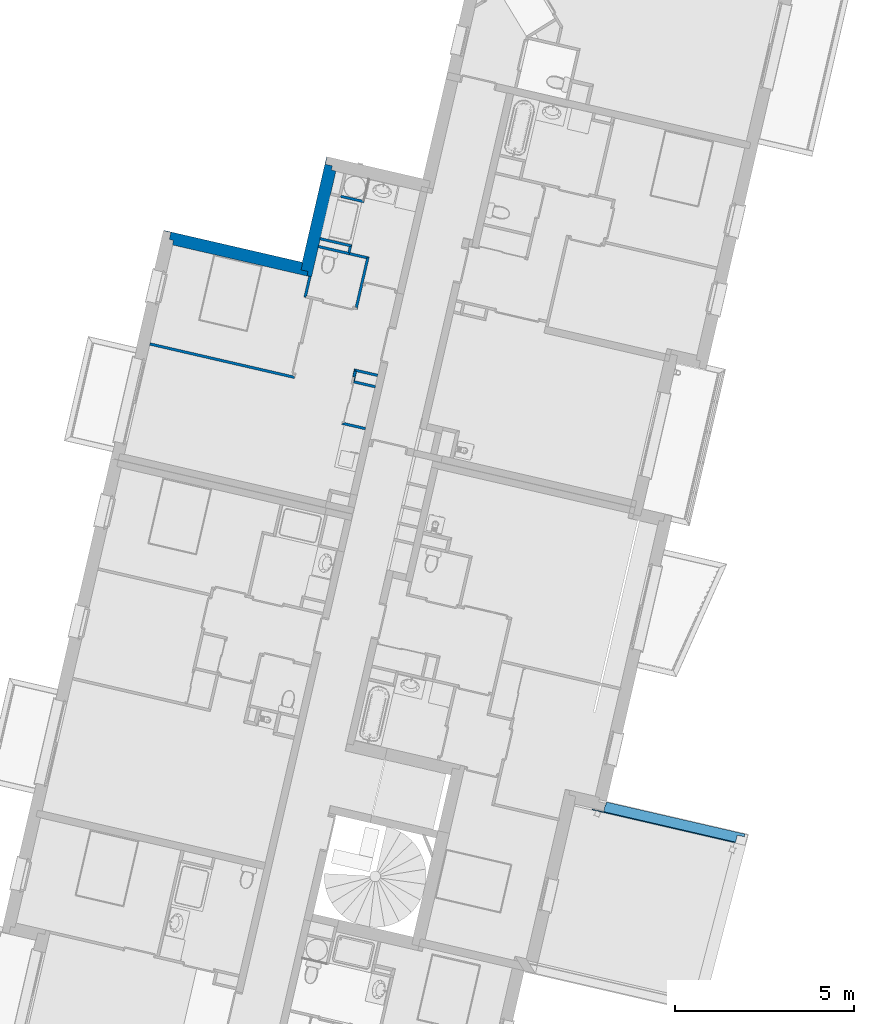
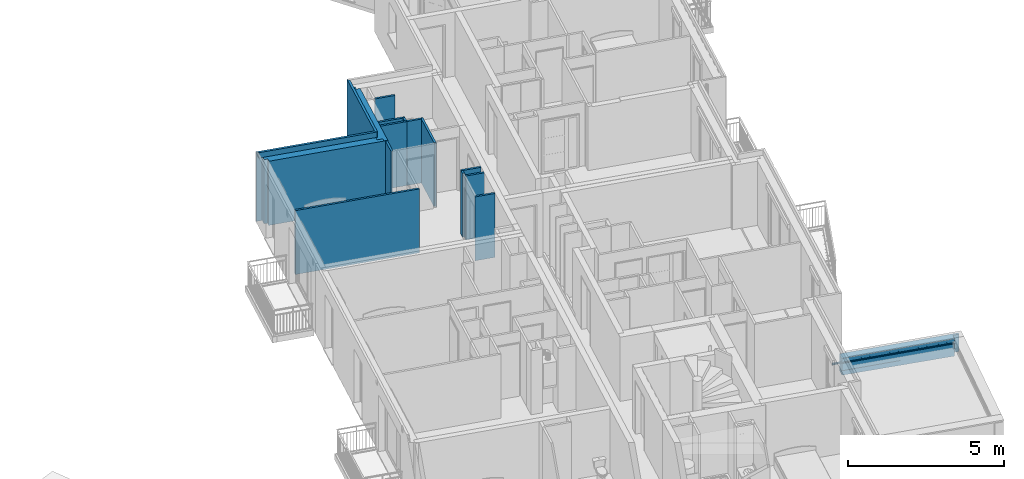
# One storey, part 51 of 90: 15 walls.
"""IFC2X3 building model written with IfcOpenShell, lengths in metres."""

import ifcopenshell
import ifcopenshell.guid

model = None  # the IFC model being written
_history = None  # IfcOwnerHistory: only IFC2X3 demands one
_inside = {}  # id of a spatial element -> (the spatial element, [elements in it])
_under = {}  # id of a project, library or spatial element -> (it, [spatial elements below it])
_declared = {}  # id of a project -> (the project, [libraries it declares])
_typed = {}  # id of a type object -> (the type object, [elements of that type])
_made_of = {}  # id of a material, layer set ... -> (it, [elements and type objects made of it])


def new_model(schema):
    """Start an empty IFC model of exactly this schema.

    Asked for "IFC4X3", IfcOpenShell would pick the latest addendum, in which some entities
    have other attributes; the version numbers below select the first issue.
    IFC2X3 requires an IfcOwnerHistory on every rooted entity: one is made here for all.
    """
    global model, _history
    if schema == "IFC4X3":
        model = ifcopenshell.file(schema_version=(4, 3, 0, 0))
    else:
        model = ifcopenshell.file(schema=schema)
    _inside.clear()
    _under.clear()
    _declared.clear()
    _typed.clear()
    _made_of.clear()
    _history = None
    if model.schema == "IFC2X3":
        org = make("IfcOrganization", Name="unknown")
        user = make(
            "IfcPersonAndOrganization",
            ThePerson=make("IfcPerson", FamilyName="unknown"),
            TheOrganization=org,
        )
        app = make(
            "IfcApplication",
            ApplicationDeveloper=org,
            Version="unknown",
            ApplicationFullName="unknown",
            ApplicationIdentifier="unknown",
        )
        _history = make(
            "IfcOwnerHistory",
            OwningUser=user,
            OwningApplication=app,
            ChangeAction="ADDED",
            CreationDate=0,
        )
    return model


def make(cls, **values):
    """One entity of the class cls with the attributes given. An attribute that is None is left unset."""
    return model.create_entity(
        cls, **{name: value for name, value in values.items() if value is not None}
    )


def entity(cls, *values):
    """Any entity or typed value of the class cls, its attributes in the order of the schema. None: left unset."""
    e = model.create_entity(cls)
    for i, value in enumerate(values):
        if value is not None:
            e[i] = value
    return e


def rooted(cls, **values):
    """An entity with a GlobalId (a new one), such as an element, a storey or a relation."""
    return make(cls, GlobalId=ifcopenshell.guid.new(), OwnerHistory=_history, **values)


def si_unit(unit_type, name, prefix=None):
    """IfcSIUnit, for example si_unit("LENGTHUNIT", "METRE", prefix="MILLI")."""
    return make("IfcSIUnit", UnitType=unit_type, Prefix=prefix, Name=name)


def converted_unit(unit_type, name, factor, base, dimensions=None, offset=None):
    """IfcConversionBasedUnit, such as the inch: factor (a typed value) times the base unit."""
    return make(
        "IfcConversionBasedUnit"
        if offset is None
        else "IfcConversionBasedUnitWithOffset",
        ConversionOffset=offset,
        Dimensions=None
        if dimensions is None
        else entity("IfcDimensionalExponents", *dimensions),
        UnitType=unit_type,
        Name=name,
        ConversionFactor=make(
            "IfcMeasureWithUnit", ValueComponent=factor, UnitComponent=base
        ),
    )


def derived_unit(unit_type, elements):
    """IfcDerivedUnit: a product of units, each with its exponent."""
    return make(
        "IfcDerivedUnit",
        Elements=[
            make("IfcDerivedUnitElement", Unit=unit, Exponent=power)
            for unit, power in elements
        ],
        UnitType=unit_type,
    )


def money_unit(currency):
    """IfcMonetaryUnit."""
    return make("IfcMonetaryUnit", Currency=currency)


def assignment(units):
    """IfcUnitAssignment: the units of a project."""
    return None if units is None else make("IfcUnitAssignment", Units=units)


def point(xyz):
    """IfcCartesianPoint."""
    return None if xyz is None else make("IfcCartesianPoint", Coordinates=xyz)


def direction(xyz):
    """IfcDirection."""
    return None if xyz is None else make("IfcDirection", DirectionRatios=xyz)


def frame(location, z_axis=None, x_axis=None):
    """IfcAxis2Placement3D, a coordinate frame: its origin and axes. An axis left out is left unset."""
    return make(
        "IfcAxis2Placement3D",
        Location=point(location),
        Axis=direction(z_axis),
        RefDirection=direction(x_axis),
    )


def origin_with_axes():
    """The frame at (0, 0, 0) with the z axis (0, 0, 1) and the x axis (1, 0, 0) written out."""
    return frame((0.0, 0.0, 0.0), z_axis=(0.0, 0.0, 1.0), x_axis=(1.0, 0.0, 0.0))


def place(relative_to, where):
    """IfcLocalPlacement: puts the frame where relative to a parent placement (None: the world)."""
    return make(
        "IfcLocalPlacement", PlacementRelTo=relative_to, RelativePlacement=where
    )


def context(
    kind, dimensions, precision=None, world=None, true_north=None, identifier=None
):
    """IfcGeometricRepresentationContext, for example the 3D "Model" context."""
    return make(
        "IfcGeometricRepresentationContext",
        ContextIdentifier=identifier,
        ContextType=kind,
        CoordinateSpaceDimension=dimensions,
        Precision=precision,
        WorldCoordinateSystem=world,
        TrueNorth=true_north,
    )


def subcontext(parent, identifier, kind, view, scale=None):
    """IfcGeometricRepresentationSubContext, for example "Body" below "Model"."""
    return make(
        "IfcGeometricRepresentationSubContext",
        ContextIdentifier=identifier,
        ContextType=kind,
        ParentContext=parent,
        TargetScale=scale,
        TargetView=view,
    )


def project(units=None, contexts=None):
    """IfcProject with its units and contexts."""
    return rooted(
        "IfcProject",
        Name="project",
        RepresentationContexts=contexts,
        UnitsInContext=assignment(units),
    )


def spatial(cls, under=None, at=None, **own):
    """A site, building, storey or space (cls), placed at a placement, below another one or the project."""
    s = rooted(cls, ObjectPlacement=at, **own)
    if under is not None:
        _under.setdefault(under.id(), (under, []))[1].append(s)
    return s


def faces_of(points, faces, orient=None, outer=None):
    """IfcFace entities. A face is a list of loops; a loop is a list of indices into points, from 0.

    orient and outer hold one flag for each loop. By default every Orientation is true, the
    first loop of a face is its IfcFaceOuterBound and the others are IfcFaceBound.
    """
    made = []
    for i, loops in enumerate(faces):
        bounds = []
        for j, loop in enumerate(loops):
            is_outer = j == 0 if outer is None else outer[i][j]
            bounds.append(
                make(
                    "IfcFaceOuterBound" if is_outer else "IfcFaceBound",
                    Bound=make("IfcPolyLoop", Polygon=[points[k] for k in loop]),
                    Orientation=True if orient is None else orient[i][j],
                )
            )
        made.append(make("IfcFace", Bounds=bounds))
    return made


def faceted_brep(points, faces, orient=None, outer=None, voids=None):
    """IfcFacetedBrep: a solid bounded by flat faces; with voids (closed shells), ...WithVoids."""
    shared = [point(p) for p in points]
    hull = make("IfcClosedShell", CfsFaces=faces_of(shared, faces, orient, outer))
    if voids is None:
        return make("IfcFacetedBrep", Outer=hull)
    return make(
        "IfcFacetedBrepWithVoids",
        Outer=hull,
        Voids=[
            make(cls, CfsFaces=faces_of(shared, fs, o, b)) for cls, fs, o, b in voids
        ],
    )


def shape(context_of_items, identifier, shape_type, items):
    """IfcShapeRepresentation: the items that make up one representation, for example the "Body"."""
    return make(
        "IfcShapeRepresentation",
        ContextOfItems=context_of_items,
        RepresentationIdentifier=identifier,
        RepresentationType=shape_type,
        Items=items,
    )


def material(Name=None, Category=None):
    """IfcMaterial."""
    return make("IfcMaterial", Name=Name, Category=Category)


def material_list(materials):
    """IfcMaterialList."""
    return make("IfcMaterialList", Materials=materials)


def made_of(thing, what):
    """Note that an element or type object is made of a material, layer set ...; save() writes the relation."""
    if what is not None:
        _made_of.setdefault(what.id(), (what, []))[1].append(thing)
    return thing


def type_object(cls, material=None, **own):
    """A type object (cls), such as IfcWallType, which elements share."""
    return made_of(rooted(cls, **own), material)


def element(
    cls,
    number,
    at=None,
    inside=None,
    cuts=None,
    type_object=None,
    material=None,
    context=None,
    identifier="Body",
    shape_type=None,
    held_by="IfcProductDefinitionShape",
    body=None,
    shapes=None,
    **own,
):
    """One element of the class cls, such as IfcWall. Its Tag is "e" and its number.

    at: its placement. inside: the storey or other place that contains it. cuts: it is an
    opening in that element (IfcRelVoidsElement). A single representation is given by context,
    identifier, shape_type and body (its items); several are given by shapes. held_by: the class
    of the entity that holds the representations. save() writes the other relations.
    """
    e = rooted(cls, Tag="e%d" % number, ObjectPlacement=at, **own)
    if body is not None:
        shapes = [shape(context, identifier, shape_type, body)]
    if shapes is not None:
        e.Representation = make(held_by, Representations=shapes)
    if inside is not None:
        _inside.setdefault(inside.id(), (inside, []))[1].append(e)
    if cuts is not None:
        rooted(
            "IfcRelVoidsElement", RelatingBuildingElement=cuts, RelatedOpeningElement=e
        )
    if type_object is not None:
        _typed.setdefault(type_object.id(), (type_object, []))[1].append(e)
    return made_of(e, material)


def aggregate(whole, parts):
    """IfcRelAggregates: a whole, such as a stair, and the parts it consists of."""
    return rooted("IfcRelAggregates", RelatingObject=whole, RelatedObjects=parts)


def save(model, path):
    """Write the relations noted so far, then the file.

    IfcRelAggregates (storeys below a building ...), IfcRelContainedInSpatialStructure (elements
    in a storey), IfcRelDefinesByType, IfcRelAssociatesMaterial and IfcRelDeclares: one each for
    every whole, place, type object, material and project.
    """
    for whole, parts in _under.values():
        aggregate(whole, parts)
    for where, things in _inside.values():
        rooted(
            "IfcRelContainedInSpatialStructure",
            RelatedElements=things,
            RelatingStructure=where,
        )
    for kind, things in _typed.values():
        rooted("IfcRelDefinesByType", RelatedObjects=things, RelatingType=kind)
    for what, things in _made_of.values():
        rooted("IfcRelAssociatesMaterial", RelatedObjects=things, RelatingMaterial=what)
    for by, libraries in _declared.values():
        rooted("IfcRelDeclares", RelatingContext=by, RelatedDefinitions=libraries)
    model.write(path)


model = new_model("IFC2X3")

# Units and contexts
model_context = context("Model", 3, precision=1e-05, world=origin_with_axes(), true_north=direction((0.0, 1.0)))
body_context = subcontext(model_context, "Body", "Model", "MODEL_VIEW")
ifc_project = project(units=[si_unit("LENGTHUNIT", "METRE"), si_unit("AREAUNIT", "SQUARE_METRE"), si_unit("VOLUMEUNIT", "CUBIC_METRE"), converted_unit("PLANEANGLEUNIT", "DEGREE", entity("IfcPlaneAngleMeasure", 0.0174532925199), si_unit("PLANEANGLEUNIT", "RADIAN"), dimensions=[0, 0, 0, 0, 0, 0, 0]), si_unit("SOLIDANGLEUNIT", "STERADIAN"), money_unit("EUR"), converted_unit("TIMEUNIT", "Year", entity("IfcTimeMeasure", 31556926.0), si_unit("TIMEUNIT", "SECOND"), dimensions=[0, 0, 1, 0, 0, 0, 0]), si_unit("MASSUNIT", "GRAM", prefix="KILO"), si_unit("THERMODYNAMICTEMPERATUREUNIT", "DEGREE_CELSIUS"), si_unit("LUMINOUSINTENSITYUNIT", "LUMEN"), si_unit("ENERGYUNIT", "JOULE", prefix="MEGA"), derived_unit("THERMALCONDUCTANCEUNIT", [(si_unit("POWERUNIT", "WATT"), 1), (si_unit("LENGTHUNIT", "METRE"), -1), (si_unit("THERMODYNAMICTEMPERATUREUNIT", "KELVIN"), -1)]), derived_unit("SPECIFICHEATCAPACITYUNIT", [(si_unit("ENERGYUNIT", "JOULE"), 1), (si_unit("MASSUNIT", "GRAM", prefix="KILO"), -1), (si_unit("THERMODYNAMICTEMPERATUREUNIT", "KELVIN"), -1)]), derived_unit("MASSDENSITYUNIT", [(si_unit("MASSUNIT", "GRAM", prefix="KILO"), 1), (si_unit("VOLUMEUNIT", "CUBIC_METRE"), -1)])], contexts=[model_context])

# Site, building, storey
site_placement = place(None, origin_with_axes())
site = spatial("IfcSite", under=ifc_project, at=site_placement, Name="Site", CompositionType="ELEMENT")
building_placement = place(site_placement, origin_with_axes())
building = spatial("IfcBuilding", under=site, at=building_placement, Name="Bâtiment", CompositionType="ELEMENT")
storey_placement = place(building_placement, frame((0.0, 0.0, 2.72), z_axis=(0.0, 0.0, 1.0), x_axis=(1.0, 0.0, 0.0)))
storey = spatial("IfcBuildingStorey", under=building, at=storey_placement, Name="R+1", CompositionType="ELEMENT", Elevation=2.72)

# Walls
ifc_material_1 = material(Name="Finition int - Plaque de plâtre")
ifc_material_2 = material(Name="Isolation - Polystyrène extrudé")
ifc_material_3 = material(Name="Bloc ELITHERM")
ifc_material_4 = material(Name="Isolation - Polystyrène expansé")
ifc_material_5 = material(Name="Mortier")
ifc_material_6 = material(Name="Béton cellulaire")
ifc_material_7 = material(Name="Finition ext - Crépis")
ifc_material_list_1 = material_list([ifc_material_1, ifc_material_2, ifc_material_3, ifc_material_4, ifc_material_5, ifc_material_6, ifc_material_7])
wall_type_1 = type_object("IfcWallType", Name="Mur ALKERN + planelle 21 345 x 2720", PredefinedType="USERDEFINED")
wall_1_placement = place(storey_placement, frame((-10.8873022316, 12.4248199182, 0.0), z_axis=(0.0, 0.0, 1.0), x_axis=(-0.22487619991, -0.974387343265, 0.0)))
element("IfcWall", 1, at=wall_1_placement, inside=storey, type_object=wall_type_1, material=ifc_material_list_1, Name="Mue bloc ALKERN isolé", ObjectType="SOLIDWALL", context=body_context, shape_type="Brep", body=[
    faceted_brep([(3.3749999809, 0.335000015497, 2.51000000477), (0.34499998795, 0.335000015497, 2.51), (0.34499998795, 0.335000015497, 0.0), (3.3749999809, 0.335000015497, 0.0), (2.23900000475, 0.335, 2.2), (1.02900000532, 0.335, 2.2), (1.02900000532, 0.335, 2.5), (2.23900000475, 0.335, 2.5), (3.3749999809, 0.34499998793, 2.51000000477), (0.34499998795, 0.34499998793, 2.51), (0.34499998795, 0.34499998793, 0.0), (3.3749999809, 0.34499998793, 0.0), (2.23900000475, 0.34499998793, 2.2), (1.02900000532, 0.34499998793, 2.2), (1.02900000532, 0.34499998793, 2.5), (2.23900000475, 0.34499998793, 2.5)], [[[0, 1, 2, 3], [4, 5, 6, 7]], [[8, 9, 1, 0]], [[2, 1, 9, 10]], [[3, 2, 10, 11]], [[0, 3, 11, 8]], [[12, 13, 5, 4]], [[13, 14, 6, 5]], [[14, 15, 7, 6]], [[15, 12, 4, 7]], [[11, 10, 9, 8], [12, 15, 14, 13]]]),
    faceted_brep([(0.33500001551, 0.215000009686, 2.51), (3.36500001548, 0.215000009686, 2.51), (3.36500001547, 0.335000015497, 2.51), (0.335000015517, 0.335000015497, 2.51), (0.33500001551, 0.215000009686, 0.0), (3.36500001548, 0.215000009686, 0.0), (3.36500001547, 0.335000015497, 0.0), (0.335000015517, 0.335000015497, 0.0)], [[[0, 1, 2, 3]], [[4, 5, 1, 0]], [[5, 6, 2, 1]], [[3, 2, 6, 7]], [[4, 0, 3, 7]], [[7, 6, 5, 4]]]),
    faceted_brep([(3.24500000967, 0.0829999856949, 2.51), (3.24500000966, 0.214999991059, 2.51), (0.214999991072, 0.214999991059, 2.50999999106), (0.214999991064, 0.0829999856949, 2.50999999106), (3.24500000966, 0.214999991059, 0.0), (3.24500000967, 0.015, 2.51), (3.24500000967, 0.015, 0.0), (0.214999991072, 0.214999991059, 0.0), (0.21499999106, 0.015, 0.0), (0.21499999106, 0.015, 2.50999999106)], [[[0, 1, 2, 3]], [[4, 1, 0, 5, 6]], [[1, 4, 7, 2]], [[3, 2, 7, 8, 9]], [[5, 0, 3, 9]], [[6, 5, 9, 8]], [[4, 6, 8, 7]]]),
    faceted_brep([(3.11299999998, 0.083000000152, 2.51999998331), (0.0830000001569, 0.083000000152, 2.51999999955), (0.0830000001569, 0.083000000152, 2.72), (3.11299999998, 0.083000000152, 2.72), (3.11299999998, 0.0630000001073, 2.51999998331), (0.0830000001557, 0.0630000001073, 2.51999999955), (0.0830000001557, 0.0630000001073, 2.72), (3.11299999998, 0.0630000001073, 2.72)], [[[0, 1, 2, 3]], [[4, 5, 1, 0]], [[5, 6, 2, 1]], [[3, 2, 6, 7]], [[7, 4, 0, 3]], [[7, 6, 5, 4]]]),
    faceted_brep([(0.0830000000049, 0.083, 2.51), (0.0830000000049, 0.083, 2.52), (3.11299999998, 0.083, 2.51999998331), (3.11299999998, 0.083, 2.51000000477), (0.0830000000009, 0.015, 2.52), (0.0830000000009, 0.015, 2.51), (3.11299999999, 0.015, 2.51999998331), (3.11299999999, 0.015, 2.51000000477)], [[[0, 1, 2, 3]], [[4, 1, 0, 5]], [[1, 4, 6, 2]], [[7, 3, 2, 6]], [[5, 0, 3, 7]], [[4, 5, 7, 6]]]),
    faceted_brep([(3.09300000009, 0.015, 2.72), (3.09300000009, 0.0629999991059, 2.72), (0.0629999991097, 0.0629999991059, 2.72), (0.0629999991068, 0.015, 2.72), (3.09300000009, 0.0629999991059, 2.51999999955), (3.09300000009, 0.015, 2.51999999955), (0.0629999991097, 0.0629999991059, 2.51999999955), (0.0629999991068, 0.015, 2.51999999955)], [[[0, 1, 2, 3]], [[4, 1, 0, 5]], [[1, 4, 6, 2]], [[3, 2, 6, 7]], [[5, 0, 3, 7]], [[4, 5, 7, 6]]]),
    faceted_brep([(0.0149999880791, 0.0, 2.72), (3.04499999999, 0.0, 2.72), (3.04499999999, 0.0149999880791, 2.72), (0.0149999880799, 0.0149999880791, 2.72), (3.04499999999, 0.0, 0.0), (0.0149999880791, 0.0, 0.0), (3.04499999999, 0.0149999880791, 0.0), (0.0149999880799, 0.0149999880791, 0.0)], [[[0, 1, 2, 3]], [[4, 1, 0, 5]], [[6, 2, 1, 4]], [[3, 2, 6, 7]], [[5, 0, 3, 7]], [[7, 6, 4, 5]]]),
])
wall_2_placement = place(storey_placement, frame((-11.5686771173, 9.47242626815, 0.0), z_axis=(0.0, 0.0, 1.0), x_axis=(-0.974387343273, 0.224876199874, 0.0)))
element("IfcWall", 2, at=wall_2_placement, inside=storey, type_object=wall_type_1, material=ifc_material_list_1, Name="Mue bloc ALKERN isolé", ObjectType="SOLIDWALL", context=body_context, shape_type="Brep", body=[
    faceted_brep([(3.63500001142, 0.34499998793, 2.51), (-0.335000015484, 0.34499998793, 2.51), (-0.335000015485, 0.335000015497, 2.51), (3.63500001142, 0.335000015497, 2.51), (3.63500001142, 0.34499998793, 0.0), (-0.335000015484, 0.34499998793, 0.0), (-0.335000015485, 0.335000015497, 0.0), (3.63500001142, 0.335000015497, 0.0)], [[[0, 1, 2, 3]], [[4, 5, 1, 0]], [[5, 6, 2, 1]], [[3, 2, 6, 7]], [[4, 0, 3, 7]], [[7, 6, 5, 4]]]),
    faceted_brep([(3.64499998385, 0.335000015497, 2.51), (-0.215000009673, 0.335000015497, 2.51), (-0.215000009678, 0.215000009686, 2.51), (3.64499998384, 0.215000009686, 2.51), (3.64499998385, 0.335000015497, 0.0), (-0.215000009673, 0.335000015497, 0.0), (-0.215000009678, 0.215000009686, 0.0), (3.64499998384, 0.215000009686, 0.0)], [[[0, 1, 2, 3]], [[4, 5, 1, 0]], [[5, 6, 2, 1]], [[3, 2, 6, 7]], [[4, 0, 3, 7]], [[7, 6, 5, 4]]]),
    faceted_brep([(-0.0149999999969, 0.0829999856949, 2.50999999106), (-0.0149999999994, 0.015, 2.50999999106), (3.76500000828, 0.015, 2.50999999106), (3.76500000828, 0.0829999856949, 2.50999999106), (-0.0149999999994, 0.015, 0.0), (-0.014999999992, 0.214999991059, 2.50999999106), (-0.014999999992, 0.214999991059, 0.0), (3.76500000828, 0.015, 0.0), (3.76500000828, 0.214999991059, 0.0), (3.76500000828, 0.214999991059, 2.50999999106)], [[[0, 1, 2, 3]], [[4, 1, 0, 5, 6]], [[1, 4, 7, 2]], [[3, 2, 7, 8, 9]], [[5, 0, 3, 9]], [[6, 5, 9, 8]], [[4, 6, 8, 7]]]),
    faceted_brep([(3.89699999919, 0.083000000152, 2.72), (-0.0630000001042, 0.083000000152, 2.72), (-0.063000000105, 0.0630000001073, 2.72), (3.89699999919, 0.0630000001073, 2.72), (3.89699999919, 0.083000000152, 2.51999999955), (-0.0630000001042, 0.083000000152, 2.51999999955), (-0.063000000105, 0.0630000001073, 2.51999999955), (3.89699999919, 0.0630000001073, 2.51999999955)], [[[0, 1, 2, 3]], [[4, 5, 1, 0]], [[5, 6, 2, 1]], [[3, 2, 6, 7]], [[4, 0, 3, 7]], [[7, 6, 5, 4]]]),
    faceted_brep([(-0.0149999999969, 0.083, 2.52), (-0.0149999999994, 0.015, 2.52), (3.89699999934, 0.015, 2.52), (3.89699999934, 0.083, 2.52), (-0.0149999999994, 0.015, 2.51), (-0.0149999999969, 0.083, 2.51), (3.89699999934, 0.015, 2.51), (3.89699999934, 0.083, 2.51)], [[[0, 1, 2, 3]], [[4, 1, 0, 5]], [[1, 4, 6, 2]], [[3, 2, 6, 7]], [[5, 0, 3, 7]], [[4, 5, 7, 6]]]),
    faceted_brep([(-0.0149999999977, 0.0629999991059, 2.72), (-0.0149999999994, 0.015, 2.72), (3.91700000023, 0.015, 2.72), (3.91700000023, 0.0629999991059, 2.72), (-0.0149999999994, 0.015, 2.51999999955), (-0.0149999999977, 0.0629999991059, 2.51999999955), (3.91700000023, 0.015, 2.51999999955), (3.91700000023, 0.0629999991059, 2.51999999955)], [[[0, 1, 2, 3]], [[4, 1, 0, 5]], [[1, 4, 6, 2]], [[3, 2, 6, 7]], [[5, 0, 3, 7]], [[4, 5, 7, 6]]]),
    faceted_brep([(3.96500001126, 0.0149999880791, 2.72), (0.0, 0.0149999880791, 2.72), (0.0, 0.0, 2.72), (3.96500001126, 0.0, 2.72), (0.0, 0.0149999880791, 0.0), (3.96500001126, 0.0149999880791, 0.0), (0.0, 0.0, 0.0), (3.96500001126, 0.0, 0.0)], [[[0, 1, 2, 3]], [[4, 1, 0, 5]], [[6, 2, 1, 4]], [[3, 2, 6, 7]], [[5, 0, 3, 7]], [[7, 6, 4, 5]]]),
])
ifc_material_8 = material(Name="Isolation - Laine de roche")
ifc_material_list_2 = material_list([ifc_material_1, ifc_material_8, ifc_material_1])
wall_type_2 = type_object("IfcWallType", Name="3 - Cloison 72mm Placostil 74", PredefinedType="USERDEFINED")
wall_3_placement = place(storey_placement, frame((-9.85394506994, 11.1302860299, 0.0), z_axis=(0.0, 0.0, 1.0), x_axis=(-0.974387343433, 0.224876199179, 0.0)))
element("IfcWall", 3, at=wall_3_placement, inside=storey, type_object=wall_type_2, material=ifc_material_list_2, Name="Cloison Placostil 72/48", ObjectType="PARTITIONING", context=body_context, shape_type="Brep", body=[
    faceted_brep([(0.0, -0.013, 0.0), (0.654000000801, -0.013, 0.0), (0.654000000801, -0.0130000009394, 2.5), (0.0, -0.0130000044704, 2.5), (0.0, 0.0, 0.0), (0.654000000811, 0.0, 0.0), (0.654000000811, 0.0, 2.5), (0.0, 4.47035475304e-09, 2.5), (0.0, 4.47035475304e-09, 1.0)], [[[0, 1, 2, 3]], [[4, 5, 1, 0]], [[5, 6, 2, 1]], [[3, 2, 6, 7]], [[4, 0, 3, 7, 8]], [[7, 6, 5, 4, 8]]]),
    faceted_brep([(0.0, -0.061, 0.0), (0.667000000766, -0.061, 0.0), (0.667000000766, -0.0609999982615, 2.5), (0.0, -0.0609999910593, 2.5), (0.0, -0.013, 0.0), (0.667000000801, -0.0129999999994, 0.0), (0.667000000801, -0.0129999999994, 2.5), (0.0, -0.0130000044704, 2.5)], [[[0, 1, 2, 3]], [[4, 5, 1, 0]], [[5, 6, 2, 1]], [[3, 2, 6, 7]], [[4, 0, 3, 7]], [[7, 6, 5, 4]]]),
    faceted_brep([(0.0, -0.0609999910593, 2.5), (0.0, -0.0609999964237, 1.0), (0.0, -0.074, 1.0), (0.0, -0.074, 2.5), (0.0199999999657, -0.061, 0.0), (0.0199999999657, -0.0609999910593, 1.0), (0.654000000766, -0.0609999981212, 2.5), (0.654000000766, -0.061, 0.0), (0.0199999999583, -0.074, 1.0), (0.0199999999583, -0.074, 0.0), (0.654000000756, -0.074, 0.0), (0.654000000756, -0.074, 2.5)], [[[0, 1, 2, 3]], [[4, 5, 1, 0, 6, 7]], [[5, 8, 2, 1]], [[2, 8, 9, 10, 11, 3]], [[3, 11, 6, 0]], [[4, 9, 8, 5]], [[7, 6, 11, 10]], [[10, 9, 4, 7]]]),
])
wall_4_placement = place(storey_placement, frame((-10.108684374, 6.4987370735, 0.0), z_axis=(0.0, 0.0, 1.0), x_axis=(-0.22487619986, -0.974387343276, 0.0)))
element("IfcWall", 4, at=wall_4_placement, inside=storey, type_object=wall_type_2, material=ifc_material_list_2, Name="Cloison Placostil 72/48", ObjectType="PARTITIONING", context=body_context, shape_type="Brep", body=[
    faceted_brep([(0.0739999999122, 0.074, 0.0), (0.337000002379, 0.074, 0.0), (0.33700000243, 0.061, 0.0), (0.0739999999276, 0.061, 0.0), (0.0739999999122, 0.074, 2.5), (0.337000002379, 0.074, 2.5), (0.33700000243, 0.061, 2.5), (0.0739999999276, 0.061, 2.5)], [[[0, 1, 2, 3]], [[4, 5, 1, 0]], [[6, 2, 1, 5]], [[3, 2, 6, 7]], [[7, 4, 0, 3]], [[7, 6, 5, 4]]]),
    faceted_brep([(0.0609999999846, 0.013, 2.5), (0.224000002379, 0.013, 2.5), (0.224000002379, 0.061, 2.5), (0.0609999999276, 0.061, 2.5), (0.0609999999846, 0.013, 0.0), (0.224000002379, 0.013, 0.0), (0.224000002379, 0.061, 0.0), (0.0609999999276, 0.061, 0.0)], [[[0, 1, 2, 3]], [[4, 5, 1, 0]], [[5, 6, 2, 1]], [[3, 2, 6, 7]], [[0, 3, 7, 4]], [[7, 6, 5, 4]]]),
    faceted_brep([(0.013, 0.0, 2.5), (0.224000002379, 0.0, 2.5), (0.224000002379, 0.013, 2.5), (0.0129999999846, 0.013, 2.5), (0.013, 0.0, 0.0), (0.224000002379, 0.0, 0.0), (0.224000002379, 0.013, 0.0), (0.0129999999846, 0.013, 0.0)], [[[0, 1, 2, 3]], [[4, 5, 1, 0]], [[5, 6, 2, 1]], [[3, 2, 6, 7]], [[0, 3, 7, 4]], [[7, 6, 5, 4]]]),
])
wall_5_placement = place(storey_placement, frame((-9.69303099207, 9.6218678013, 0.0), z_axis=(0.0, 0.0, 1.0), x_axis=(-0.224876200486, -0.974387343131, 0.0)))
element("IfcWall", 5, at=wall_5_placement, inside=storey, type_object=wall_type_2, material=ifc_material_list_2, Name="Cloison Placostil 72/48", ObjectType="PARTITIONING", context=body_context, shape_type="Brep", body=[
    faceted_brep([(0.756000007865, -0.013, 2.5), (0.75600000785, 0.0, 2.5), (0.0, 0.0, 2.5), (1.65902847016e-10, -0.013, 2.5), (0.756000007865, -0.013, 0.0), (0.75600000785, 0.0, 0.0), (0.0, 0.0, 0.0), (1.65902847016e-10, -0.013, 0.0)], [[[0, 1, 2, 3]], [[1, 0, 4, 5]], [[1, 5, 6, 2]], [[7, 3, 2, 6]], [[4, 0, 3, 7]], [[5, 4, 7, 6]]]),
    faceted_brep([(1.50400001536, -0.013, 2.5), (1.50400001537, 0.0, 2.5), (0.80400000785, 0.0, 2.5), (0.804000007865, -0.013, 2.5), (1.50400001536, -0.013, 0.0), (1.50400001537, 0.0, 0.0), (0.80400000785, 0.0, 0.0), (0.804000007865, -0.013, 0.0)], [[[0, 1, 2, 3]], [[1, 0, 4, 5]], [[1, 5, 6, 2]], [[7, 3, 2, 6]], [[4, 0, 3, 7]], [[5, 4, 7, 6]]]),
    faceted_brep([(1.45600001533, -0.061, 2.5), (1.45600001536, -0.013, 2.5), (0.0130000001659, -0.013, 2.5), (0.0130000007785, -0.061, 2.5), (1.45600001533, -0.061, 0.0), (1.45600001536, -0.013, 0.0), (0.0130000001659, -0.013, 0.0), (0.0130000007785, -0.061, 0.0)], [[[0, 1, 2, 3]], [[1, 0, 4, 5]], [[1, 5, 6, 2]], [[7, 3, 2, 6]], [[4, 0, 3, 7]], [[5, 4, 7, 6]]]),
    faceted_brep([(1.44300001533, -0.074, 2.5), (1.44300001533, -0.061, 2.5), (0.0610000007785, -0.061, 2.5), (0.0610000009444, -0.074, 2.5), (1.44300001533, -0.074, 0.0), (1.44300001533, -0.061, 0.0), (0.0610000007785, -0.061, 0.0), (0.0610000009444, -0.074, 0.0)], [[[0, 1, 2, 3]], [[1, 0, 4, 5]], [[1, 5, 6, 2]], [[7, 3, 2, 6]], [[4, 0, 3, 7]], [[5, 4, 7, 6]]]),
])
wall_6_placement = place(storey_placement, frame((-10.2396622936, 9.74802334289, 0.0), z_axis=(0.0, 0.0, 1.0), x_axis=(0.974387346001, -0.224876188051, 0.0)))
element("IfcWall", 6, at=wall_6_placement, inside=storey, type_object=wall_type_2, material=ifc_material_list_2, Name="Cloison Placostil 72/48", ObjectType="PARTITIONING", context=body_context, shape_type="Brep", body=[
    faceted_brep([(0.548000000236, -0.013, 2.5), (0.548000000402, 0.0, 2.5), (0.0020000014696, 0.0, 2.5), (0.00200000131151, -0.013, 2.5), (0.548000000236, -0.013, 0.0), (0.548000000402, 0.0, 0.0), (0.0020000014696, 0.0, 0.0), (0.00200000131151, -0.013, 0.0)], [[[0, 1, 2, 3]], [[1, 0, 4, 5]], [[1, 5, 6, 2]], [[7, 3, 2, 6]], [[4, 0, 3, 7]], [[5, 4, 7, 6]]]),
    faceted_brep([(0.499999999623, -0.061, 2.5), (0.500000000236, -0.013, 2.5), (0.0, -0.013, 2.5), (0.0, -0.061, 2.5), (0.499999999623, -0.061, 0.0), (0.500000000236, -0.013, 0.0), (0.0, -0.013, 0.0), (0.0, -0.061, 0.0)], [[[0, 1, 2, 3]], [[1, 0, 4, 5]], [[1, 5, 6, 2]], [[7, 3, 2, 6]], [[4, 0, 3, 7]], [[5, 4, 7, 6]]]),
    faceted_brep([(0.486999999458, -0.074, 2.5), (0.486999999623, -0.061, 2.5), (0.0, -0.061, 2.5), (0.0, -0.074, 2.5), (0.486999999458, -0.074, 0.0), (0.486999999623, -0.061, 0.0), (0.0, -0.061, 0.0), (0.0, -0.074, 0.0)], [[[0, 1, 2, 3]], [[1, 0, 4, 5]], [[1, 5, 6, 2]], [[7, 3, 2, 6]], [[4, 0, 3, 7]], [[5, 4, 7, 6]]]),
])
wall_7_placement = place(storey_placement, frame((-9.53170416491, 5.95711559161, 0.0), z_axis=(0.0, 0.0, 1.0), x_axis=(-0.974387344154, 0.224876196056, 0.0)))
element("IfcWall", 7, at=wall_7_placement, inside=storey, type_object=wall_type_2, material=ifc_material_list_2, Name="Cloison Placostil 72/48", ObjectType="PARTITIONING", context=body_context, shape_type="Brep", body=[
    faceted_brep([(0.0, -0.013, 0.0), (0.622999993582, -0.013, 0.0), (0.622999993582, -0.013, 2.5), (0.0, -0.013, 2.5), (0.0, 0.0, 0.0), (0.622999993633, 0.0, 0.0), (0.622999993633, 0.0, 2.5), (0.0, 0.0, 2.5)], [[[0, 1, 2, 3]], [[4, 5, 1, 0]], [[5, 6, 2, 1]], [[3, 2, 6, 7]], [[4, 0, 3, 7]], [[7, 6, 5, 4]]]),
    faceted_brep([(-2.37522002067e-10, -0.061, 2.5), (0.622999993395, -0.061, 2.5), (0.622999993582, -0.013, 2.5), (0.0, -0.013, 2.5), (-2.37522002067e-10, -0.061, 0.0), (0.622999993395, -0.061, 0.0), (0.622999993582, -0.013, 0.0), (0.0, -0.013, 0.0)], [[[0, 1, 2, 3]], [[4, 5, 1, 0]], [[6, 2, 1, 5]], [[3, 2, 6, 7]], [[7, 4, 0, 3]], [[7, 6, 5, 4]]]),
    faceted_brep([(-2.88141066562e-10, -0.074, 2.5), (0.609999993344, -0.074, 2.5), (0.609999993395, -0.061, 2.5), (-2.37522002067e-10, -0.061, 2.5), (-2.88141066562e-10, -0.074, 0.0), (0.609999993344, -0.074, 0.0), (0.609999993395, -0.061, 0.0), (-2.37522002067e-10, -0.061, 0.0)], [[[0, 1, 2, 3]], [[4, 5, 1, 0]], [[6, 2, 1, 5]], [[3, 2, 6, 7]], [[7, 4, 0, 3]], [[7, 6, 5, 4]]]),
])
wall_8_placement = place(storey_placement, frame((-9.45194730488, 6.34717051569, 0.0), z_axis=(0.0, 0.0, 1.0), x_axis=(-0.974387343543, 0.224876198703, 0.0)))
element("IfcWall", 8, at=wall_8_placement, inside=storey, type_object=wall_type_2, material=ifc_material_list_2, Name="Cloison Placostil 72/48", ObjectType="PARTITIONING", context=body_context, shape_type="Brep", body=[
    faceted_brep([(0.612999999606, 0.074, 0.0), (0.612999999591, 0.061, 0.0), (0.0, 0.061, 0.0), (0.0, 0.074, 0.0), (0.612999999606, 0.074, 2.5), (0.612999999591, 0.061, 2.5), (0.0, 0.061, 2.5), (0.0, 0.074, 2.5)], [[[0, 1, 2, 3]], [[1, 0, 4, 5]], [[1, 5, 6, 2]], [[7, 3, 2, 6]], [[4, 0, 3, 7]], [[5, 4, 7, 6]]]),
    faceted_brep([(0.660999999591, 0.061, 0.0), (0.660999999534, 0.013, 0.0), (0.0, 0.013, 0.0), (0.0, 0.061, 0.0), (0.660999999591, 0.061, 2.5), (0.660999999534, 0.013, 2.5), (0.0, 0.013, 2.5), (0.0, 0.061, 2.5)], [[[0, 1, 2, 3]], [[1, 0, 4, 5]], [[1, 5, 6, 2]], [[7, 3, 2, 6]], [[4, 0, 3, 7]], [[5, 4, 7, 6]]]),
    faceted_brep([(0.673999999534, 0.013, 0.0), (0.673999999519, 0.0, 0.0), (0.0, 0.0, 0.0), (0.0, 0.013, 0.0), (0.673999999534, 0.013, 2.5), (0.673999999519, 0.0, 2.5), (0.0, 0.0, 2.5), (0.0, 0.013, 2.5)], [[[0, 1, 2, 3]], [[1, 0, 4, 5]], [[1, 5, 6, 2]], [[7, 3, 2, 6]], [[4, 0, 3, 7]], [[5, 4, 7, 6]]]),
])
wall_9_placement = place(storey_placement, frame((-11.3896955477, 9.08731381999, 0.0), z_axis=(0.0, 0.0, 1.0), x_axis=(-0.224876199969, -0.974387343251, 0.0)))
element("IfcWall", 9, at=wall_9_placement, inside=storey, type_object=wall_type_2, material=ifc_material_list_2, Name="Cloison Placostil 72/48", ObjectType="PARTITIONING", context=body_context, shape_type="Brep", body=[
    faceted_brep([(0.55359790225, 0.074, 0.0), (0.553597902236, 0.061, 0.0), (0.0, 0.061, 0.0), (0.0, 0.074, 0.0), (0.55359790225, 0.074, 2.5), (0.553597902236, 0.061, 2.5), (0.0, 0.061, 2.5), (0.0, 0.074, 2.5)], [[[0, 1, 2, 3]], [[1, 0, 4, 5]], [[1, 5, 6, 2]], [[7, 3, 2, 6]], [[4, 0, 3, 7]], [[5, 4, 7, 6]]]),
    faceted_brep([(0.601597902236, 0.061, 0.0), (0.601597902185, 0.013, 0.0), (0.0, 0.013, 0.0), (0.0, 0.061, 0.0), (0.601597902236, 0.061, 2.5), (0.601597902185, 0.013, 2.5), (0.0, 0.013, 2.5), (0.0, 0.061, 2.5)], [[[0, 1, 2, 3]], [[1, 0, 4, 5]], [[1, 5, 6, 2]], [[7, 3, 2, 6]], [[4, 0, 3, 7]], [[5, 4, 7, 6]]]),
    faceted_brep([(0.614597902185, 0.013, 0.0), (0.614597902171, 0.0, 0.0), (0.0, 0.0, 0.0), (0.0, 0.013, 0.0), (0.614597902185, 0.013, 2.5), (0.614597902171, 0.0, 2.5), (0.0, 0.0, 2.5), (0.0, 0.013, 2.5)], [[[0, 1, 2, 3]], [[1, 0, 4, 5]], [[1, 5, 6, 2]], [[7, 3, 2, 6]], [[4, 0, 3, 7]], [[5, 4, 7, 6]]]),
])
wall_10_placement = place(storey_placement, frame((-11.781974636, 6.21803828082, 0.0), z_axis=(0.0, 0.0, 1.0), x_axis=(-0.974387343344, 0.224876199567, 0.0)))
element("IfcWall", 10, at=wall_10_placement, inside=storey, type_object=wall_type_2, material=ifc_material_list_2, Name="Cloison Placostil 72/48", ObjectType="PARTITIONING", context=body_context, shape_type="Brep", body=[
    faceted_brep([(0.0, -0.013, 2.5), (4.15900001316, -0.013, 2.5), (4.15900001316, 0.0, 2.5), (0.0, 0.0, 2.5), (0.0, -0.013, 0.0), (4.15900001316, -0.013, 0.0), (4.15900001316, 0.0, 0.0), (0.0, 0.0, 0.0)], [[[0, 1, 2, 3]], [[4, 5, 1, 0]], [[2, 1, 5, 6]], [[3, 2, 6, 7]], [[4, 0, 3, 7]], [[7, 6, 5, 4]]]),
    faceted_brep([(0.0129999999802, -0.061, 2.5), (4.15900001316, -0.061, 2.5), (4.15900001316, -0.013, 2.5), (0.0129999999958, -0.013, 2.5), (0.0129999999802, -0.061, 0.0), (4.15900001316, -0.061, 0.0), (4.15900001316, -0.013, 0.0), (0.0129999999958, -0.013, 0.0)], [[[0, 1, 2, 3]], [[4, 5, 1, 0]], [[2, 1, 5, 6]], [[3, 2, 6, 7]], [[4, 0, 3, 7]], [[7, 6, 5, 4]]]),
    faceted_brep([(0.060999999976, -0.074, 2.5), (4.15900001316, -0.074, 2.5), (4.15900001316, -0.061, 2.5), (0.0609999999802, -0.061, 2.5), (0.060999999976, -0.074, 0.0), (4.15900001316, -0.074, 0.0), (4.15900001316, -0.061, 0.0), (0.0609999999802, -0.061, 0.0)], [[[0, 1, 2, 3]], [[4, 5, 1, 0]], [[2, 1, 5, 6]], [[3, 2, 6, 7]], [[4, 0, 3, 7]], [[7, 6, 5, 4]]]),
])
wall_11_placement = place(storey_placement, frame((-9.81196574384, 4.78721261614, 0.0), z_axis=(0.0, 0.0, 1.0), x_axis=(-0.974387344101, 0.224876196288, 0.0)))
element("IfcWall", 11, at=wall_11_placement, inside=storey, type_object=wall_type_2, material=ifc_material_list_2, Name="Cloison Placostil 72/48", ObjectType="PARTITIONING", context=body_context, shape_type="Brep", body=[
    faceted_brep([(0.673999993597, -0.013, 2.5), (0.673999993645, 0.0, 2.5), (0.0, 0.0, 2.5), (0.0, -0.013, 2.5), (0.673999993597, -0.013, 0.0), (0.673999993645, 0.0, 0.0), (0.0, 0.0, 0.0), (0.0, -0.013, 0.0)], [[[0, 1, 2, 3]], [[1, 0, 4, 5]], [[1, 5, 6, 2]], [[7, 3, 2, 6]], [[4, 0, 3, 7]], [[5, 4, 7, 6]]]),
    faceted_brep([(0.612999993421, -0.061, 2.08), (0.660999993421, -0.061, 2.08), (0.660999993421, -0.061, 2.5), (0.0, -0.061, 2.5), (0.0, -0.061, 0.0), (0.61299998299, -0.0610000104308, 0.0), (0.621037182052, -0.0529628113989, 2.08), (0.66099999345, -0.0529628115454, 2.08), (0.66099998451, -0.0529628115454, 0.0), (0.660999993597, -0.013, 0.0), (0.660999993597, -0.013, 2.5), (0.0, -0.013, 2.5), (0.0, -0.013, 0.0), (0.621037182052, -0.0529628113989, 0.0)], [[[0, 1, 2, 3, 4, 5]], [[1, 0, 6, 7]], [[7, 8, 9, 10, 2, 1]], [[3, 2, 10, 11]], [[12, 4, 3, 11]], [[13, 5, 4, 12, 9, 8]], [[0, 5, 13, 6]], [[13, 8, 7, 6]], [[11, 10, 9, 12]]]),
    faceted_brep([(0.600000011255, -0.0739999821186, 2.08), (0.612999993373, -0.074, 2.08), (0.612999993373, -0.074, 2.5), (0.0, -0.074, 2.5), (0.0, -0.074, 0.0), (0.600000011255, -0.0739999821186, 0.0), (0.612999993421, -0.061, 2.08), (0.612999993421, -0.061, 2.5), (0.0, -0.061, 2.5), (0.0, -0.061, 0.0), (0.61299998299, -0.0610000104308, 0.0)], [[[0, 1, 2, 3, 4, 5]], [[1, 0, 6]], [[1, 6, 7, 2]], [[3, 2, 7, 8]], [[9, 4, 3, 8]], [[10, 5, 4, 9]], [[5, 10, 6, 0]], [[6, 10, 9, 8, 7]]]),
])
wall_type_3 = type_object("IfcWallType", Name="3 - Cloison Gaine Technique 72mm 74", PredefinedType="USERDEFINED")
wall_12_placement = place(storey_placement, frame((-10.1747646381, 9.96252115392, 0.0), z_axis=(0.0, 0.0, 1.0), x_axis=(-0.224876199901, -0.974387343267, 0.0)))
element("IfcWall", 12, at=wall_12_placement, inside=storey, type_object=wall_type_3, material=ifc_material_list_2, Name="Cloison Placostil 72/48", ObjectType="PARTITIONING", context=body_context, shape_type="Brep", body=[
    faceted_brep([(0.223597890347, -0.013, 2.5), (0.223597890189, 0.0, 2.5), (0.013, 0.0, 2.5), (0.0129999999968, -0.013, 2.5), (0.223597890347, -0.013, 0.0), (0.223597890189, 0.0, 0.0), (0.013, 0.0, 0.0), (0.0129999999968, -0.013, 0.0)], [[[0, 1, 2, 3]], [[1, 0, 4, 5]], [[1, 5, 6, 2]], [[7, 3, 2, 6]], [[4, 0, 3, 7]], [[5, 4, 7, 6]]]),
    faceted_brep([(0.23659789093, -0.061, 2.5), (0.236597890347, -0.013, 2.5), (0.0609999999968, -0.013, 2.5), (0.0609999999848, -0.061, 2.5), (0.23659789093, -0.061, 0.0), (0.236597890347, -0.013, 0.0), (0.0609999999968, -0.013, 0.0), (0.0609999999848, -0.061, 0.0)], [[[0, 1, 2, 3]], [[1, 0, 4, 5]], [[1, 5, 6, 2]], [[7, 3, 2, 6]], [[4, 0, 3, 7]], [[5, 4, 7, 6]]]),
    faceted_brep([(0.223597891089, -0.074, 2.5), (0.22359789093, -0.061, 2.5), (0.0739999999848, -0.061, 2.5), (0.0739999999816, -0.074, 2.5), (0.223597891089, -0.074, 0.0), (0.22359789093, -0.061, 0.0), (0.0739999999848, -0.061, 0.0), (0.0739999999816, -0.074, 0.0)], [[[0, 1, 2, 3]], [[1, 0, 4, 5]], [[1, 5, 6, 2]], [[7, 3, 2, 6]], [[4, 0, 3, 7]], [[5, 4, 7, 6]]]),
])
wall_13_placement = place(storey_placement, frame((-11.0643802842, 10.1678331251, 0.0), z_axis=(0.0, 0.0, 1.0), x_axis=(0.97438734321, -0.224876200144, 0.0)))
element("IfcWall", 13, at=wall_13_placement, inside=storey, type_object=wall_type_3, material=ifc_material_list_2, Name="Cloison Placostil 72/48", ObjectType="PARTITIONING", context=body_context, shape_type="Brep", body=[
    faceted_brep([(0.913000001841, -0.013, 2.5), (0.913000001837, 0.0, 2.5), (0.0, 0.0, 2.5), (0.0, -0.013, 2.5), (0.913000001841, -0.013, 0.0), (0.913000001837, 0.0, 0.0), (0.0, 0.0, 0.0), (0.0, -0.013, 0.0)], [[[0, 1, 2, 3]], [[1, 0, 4, 5]], [[1, 5, 6, 2]], [[7, 3, 2, 6]], [[4, 0, 3, 7]], [[5, 4, 7, 6]]]),
    faceted_brep([(0.900000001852, -0.061, 2.5), (0.900000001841, -0.013, 2.5), (0.0, -0.013, 2.5), (0.0, -0.061, 2.5), (0.900000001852, -0.061, 0.0), (0.900000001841, -0.013, 0.0), (0.0, -0.013, 0.0), (0.0, -0.061, 0.0)], [[[0, 1, 2, 3]], [[1, 0, 4, 5]], [[1, 5, 6, 2]], [[7, 3, 2, 6]], [[4, 0, 3, 7]], [[5, 4, 7, 6]]]),
    faceted_brep([(0.852000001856, -0.074, 2.5), (0.852000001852, -0.061, 2.5), (0.0, -0.061, 2.5), (0.0, -0.074, 2.5), (0.852000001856, -0.074, 0.0), (0.852000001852, -0.061, 0.0), (0.0, -0.061, 0.0), (0.0, -0.074, 0.0)], [[[0, 1, 2, 3]], [[1, 0, 4, 5]], [[1, 5, 6, 2]], [[7, 3, 2, 6]], [[4, 0, 3, 7]], [[5, 4, 7, 6]]]),
])
wall_14_placement = place(storey_placement, frame((-11.1146621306, 9.94996215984, 0.0), z_axis=(0.0, 0.0, 1.0), x_axis=(0.974387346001, -0.224876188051, 0.0)))
element("IfcWall", 14, at=wall_14_placement, inside=storey, type_object=wall_type_3, material=ifc_material_list_2, Name="Cloison Placostil 72/48", ObjectType="PARTITIONING", context=body_context, shape_type="Brep", body=[
    faceted_brep([(0.0, -0.013, 2.5), (0.89800000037, -0.013, 2.5), (0.89800000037, 0.0, 2.5), (0.0, 0.0, 2.5), (0.0, -0.013, 0.0), (0.89800000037, -0.013, 0.0), (0.89800000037, 0.0, 0.0), (0.0, 0.0, 0.0)], [[[0, 1, 2, 3]], [[4, 5, 1, 0]], [[2, 1, 5, 6]], [[3, 2, 6, 7]], [[4, 0, 3, 7]], [[7, 6, 5, 4]]]),
    faceted_brep([(0.0, -0.061, 2.5), (0.89800000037, -0.061, 2.5), (0.89800000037, -0.013, 2.5), (0.0, -0.013, 2.5), (0.0, -0.061, 0.0), (0.89800000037, -0.061, 0.0), (0.89800000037, -0.013, 0.0), (0.0, -0.013, 0.0)], [[[0, 1, 2, 3]], [[4, 5, 1, 0]], [[2, 1, 5, 6]], [[3, 2, 6, 7]], [[4, 0, 3, 7]], [[7, 6, 5, 4]]]),
    faceted_brep([(0.0, -0.074, 2.5), (0.89800000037, -0.074, 2.5), (0.89800000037, -0.061, 2.5), (0.0, -0.061, 2.5), (0.0, -0.074, 0.0), (0.89800000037, -0.074, 0.0), (0.89800000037, -0.061, 0.0), (0.0, -0.061, 0.0)], [[[0, 1, 2, 3]], [[4, 5, 1, 0]], [[2, 1, 5, 6]], [[3, 2, 6, 7]], [[4, 0, 3, 7]], [[7, 6, 5, 4]]]),
])
ifc_material_9 = material(Name="Métal - Aluminium")
ifc_material_10 = material(Name="Etanchéité - Bitume")
ifc_material_11 = material(Name="Béton")
ifc_material_12 = material(Name="Pierre")
ifc_material_list_3 = material_list([ifc_material_9, ifc_material_10, ifc_material_11, ifc_material_12])
wall_type_4 = type_object("IfcWallType", Name="Acrotère pour plancher 20 PAREMENT PIERRE 307 x 680", PredefinedType="USERDEFINED")
wall_15_placement = place(storey_placement, frame((0.882706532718, -6.52332371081, -0.5), z_axis=(0.0, 0.0, 1.0), x_axis=(-0.974387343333, 0.224876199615, 0.0)))
element("IfcWall", 15, at=wall_15_placement, inside=storey, type_object=wall_type_4, material=ifc_material_list_3, Name="Muret béton 20cm", ObjectType="PARAPET", context=body_context, shape_type="Brep", body=[
    faceted_brep([(0.289048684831, 0.281045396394, 0.576542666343), (0.289019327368, 0.28, 0.576542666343), (4.39883320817, 0.28, 0.576542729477), (4.39883320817, 0.281045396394, 0.576542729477), (0.289019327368, 0.28, 0.538228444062), (0.289048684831, 0.281045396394, 0.538228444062), (0.292550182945, 0.280000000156, 0.537144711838), (4.39883320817, 0.28, 0.537144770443), (4.39883320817, 0.281045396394, 0.538228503), (4.39883320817, 0.306250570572, 0.528993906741), (4.39883320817, 0.306250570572, 0.5), (4.39883320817, 0.307484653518, 0.5), (4.39883320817, 0.307484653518, 0.530110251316), (0.292678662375, 0.284575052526, 0.537144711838), (0.316105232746, 0.302655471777, 0.530110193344), (0.316206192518, 0.306250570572, 0.528993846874), (0.316206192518, 0.306250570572, 0.527853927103), (0.316206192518, 0.306250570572, 0.499786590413), (4.06883322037, 0.306250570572, 0.499786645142), (4.06883322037, 0.306250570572, 0.5), (4.06883322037, 0.307484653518, 0.5), (0.316240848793, 0.307484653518, 0.527853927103), (0.316240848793, 0.307484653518, 0.530110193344), (4.06883322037, 0.307484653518, 0.499786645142), (0.316240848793, 0.307484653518, 0.499786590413)], [[[0, 1, 2, 3]], [[4, 1, 0, 5]], [[4, 6, 7, 2, 1]], [[8, 3, 2, 7, 9, 10, 11, 12]], [[5, 0, 3, 8]], [[6, 4, 5, 13]], [[14, 15, 9, 7, 6]], [[15, 16, 17, 18, 19, 10, 9]], [[20, 11, 10, 19]], [[21, 22, 12, 11, 20, 23, 24]], [[13, 5, 8, 12, 22]], [[6, 13, 22, 14]], [[15, 14, 22, 21, 16]], [[16, 21, 24, 17]], [[17, 24, 23, 18]], [[20, 19, 18, 23]]]),
    faceted_brep([(4.06883322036, 0.289999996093, 0.527853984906), (0.298258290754, 0.289999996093, 0.527853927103), (0.297977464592, 0.279999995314, 0.527853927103), (4.06883322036, 0.279999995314, 0.527853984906), (0.298258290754, 0.289999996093, 0.310502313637), (4.06883322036, 0.289999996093, 0.5), (4.06883322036, 0.289999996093, 0.310502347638), (0.297977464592, 0.279999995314, 0.310502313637), (4.06883322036, 0.279999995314, 0.310502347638), (4.06883322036, 0.279999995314, 0.5)], [[[0, 1, 2, 3]], [[4, 1, 0, 5, 6]], [[7, 2, 1, 4]], [[3, 2, 7, 8, 9]], [[5, 0, 3, 9]], [[6, 5, 9, 8]], [[8, 7, 4, 6]]]),
    faceted_brep([(0.407114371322, 0.279999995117, 0.2), (0.407114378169, 0.279999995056, 0.0), (0.287973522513, 0.279999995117, 0.0), (0.287973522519, 0.279999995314, 0.310502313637), (4.06883322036, 0.279999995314, 0.310502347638), (4.06883322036, 0.279999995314, 0.29), (4.06883322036, 0.279999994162, 0.2), (4.06883322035, 0.247577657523, 0.2), (4.06883322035, 0.247577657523, 0.124999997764), (4.05383322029, 0.247710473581, 0.124999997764), (4.05383322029, 0.247710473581, 0.0), (4.05383322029, 0.08, 0.0), (0.282356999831, 0.08, 0.0), (0.282356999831, 0.08, 0.310502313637), (0.287973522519, 0.279999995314, 0.527853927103), (4.06883322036, 0.279999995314, 0.527853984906), (4.06883322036, 0.279999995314, 0.5), (4.06883322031, 0.08, 0.5), (4.06883322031, 0.08, 0.29), (4.06883322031, 0.08, 0.124999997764), (4.05383322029, 0.08, 0.124999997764), (4.06883322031, 0.08, 0.680000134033), (0.282356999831, 0.08, 0.680000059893), (0.287973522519, 0.279999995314, 0.680000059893), (0.287973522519, 0.279999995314, 0.576542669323), (0.287973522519, 0.279999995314, 0.537144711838), (4.06883322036, 0.279999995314, 0.537144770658), (4.06883322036, 0.279999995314, 0.576542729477), (4.06883322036, 0.279999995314, 0.680000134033)], [[[0, 1, 2, 3, 4, 5, 6]], [[1, 0, 7, 8, 9, 10]], [[1, 10, 11, 12, 2]], [[12, 13, 3, 2]], [[3, 14, 15, 16, 4]], [[4, 16, 17, 18, 5]], [[7, 6, 5, 18, 19, 8]], [[0, 6, 7]], [[9, 8, 19, 20]], [[10, 9, 20, 11]], [[21, 22, 13, 12, 11, 20, 19, 18, 17]], [[13, 22, 23, 24, 25, 14, 3]], [[15, 14, 25, 26]], [[16, 15, 26, 27, 28, 21, 17]], [[28, 23, 22, 21]], [[27, 24, 23, 28]], [[26, 25, 24, 27]]]),
    faceted_brep([(4.05383322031, 0.079999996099, 0.680000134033), (0.0822781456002, 0.079999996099, 0.68000005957), (0.080031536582, 0.0, 0.68000005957), (4.05383322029, 0.0, 0.680000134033), (4.05383322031, 0.079999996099, 0.125), (4.05383322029, 0.079999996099, 0.0), (0.0822781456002, 0.079999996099, 0.0), (0.0800315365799, 0.0, 0.0), (4.05383322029, -1.78899739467e-09, 0.0), (4.05383322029, -1.78899739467e-09, 0.125)], [[[0, 1, 2, 3]], [[1, 0, 4, 5, 6]], [[7, 2, 1, 6]], [[3, 2, 7, 8, 9]], [[4, 0, 3, 9]], [[5, 4, 9, 8]], [[8, 7, 6, 5]]]),
])

save(model, "model.ifc")
